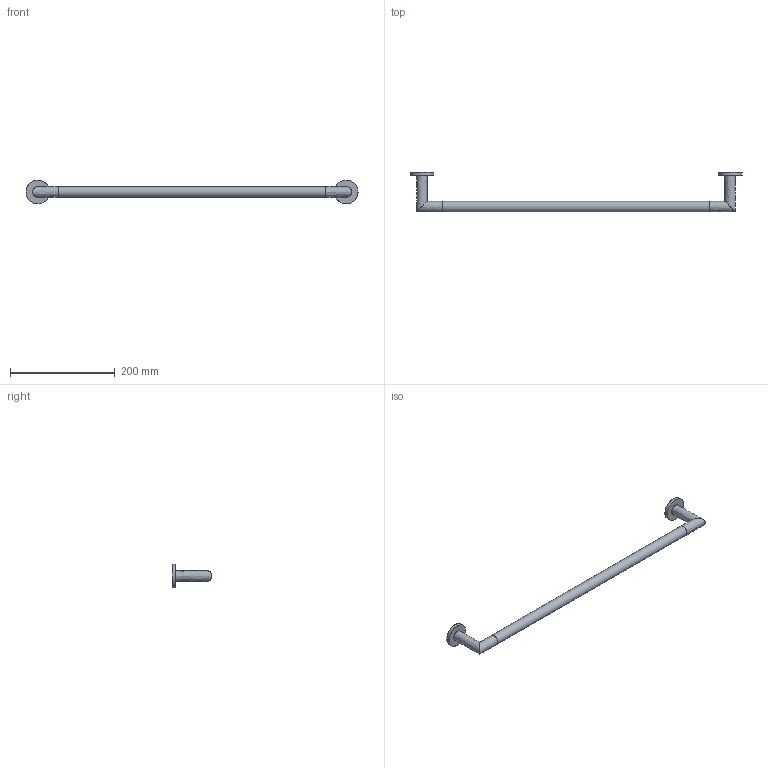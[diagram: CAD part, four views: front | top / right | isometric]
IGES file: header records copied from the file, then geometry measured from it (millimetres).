
Global section: file name: /Users/f/Desktop/I'/AE212.igs; native system: Rhinoceros ( Jul 22 2010 ); preprocessor: Trout Lake IGES 012 Jul 22 2010; date: 100727.145740; units: millimetre
Bounding box: 633 x 76 x 45 mm (x, y, z)
Surface area: 53244.5 mm2 (no closed solid volume)
Topology: 0 solids, 0 shells, 13 faces, 209 edges, 204 vertices
Faces by surface type: bspline 13
